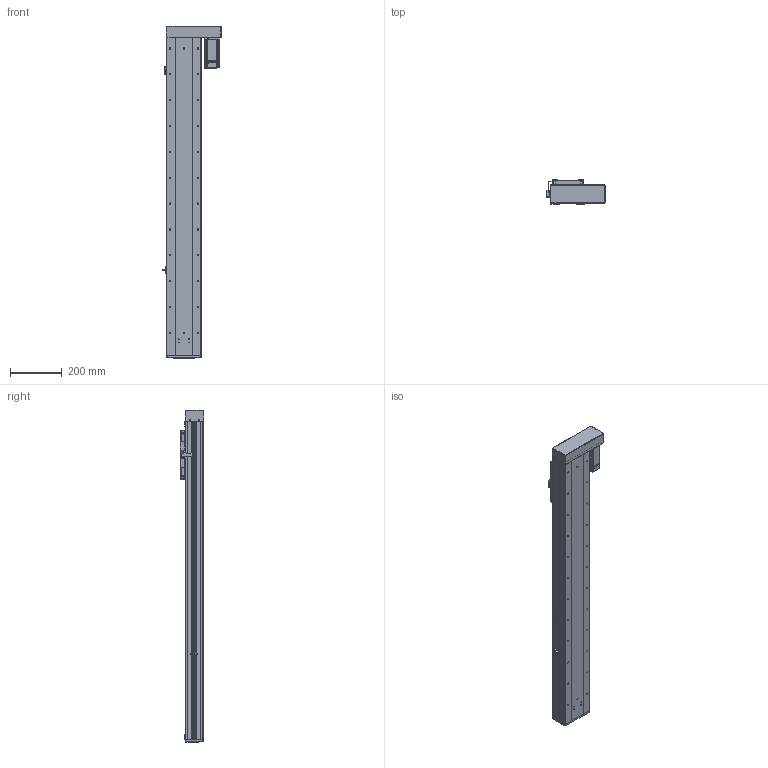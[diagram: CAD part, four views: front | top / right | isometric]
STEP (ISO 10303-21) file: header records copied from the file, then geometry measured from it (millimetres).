
FILE_DESCRIPTION (( 'STEP AP203' ), '1' );
FILE_NAME ('RY140F-L2020-300-RK.SLDASM_950.step', '2021-03-02T08:50:46', ( '盈信电脑' ), ( '东莞市道滘镇水果街19号' ), 'SwSTEP 2.0', 'SolidWorks 2012', '' );
FILE_SCHEMA (( 'CONFIG_CONTROL_DESIGN' ));
Length unit declared in the file: millimetre
Products named in the file (19): RY140F-L2020-300-RK.SLDASM_950; RY140F-酘衵殏萇儂欶(400W); RY140F-转折折电机座（7001）; RY140F-左右折电机安装板(400W M5); RY140F-詩湍揤え; 侐源滅袉蝶; RY140F-672覜茼んえ; 15; 侂狟400W侜督萇儂; 覜茼ん672; RY140F-后盖板(铝件）; RY100F-詩湍揤踡謫; RY140F-直连型材铝滑块(16丝杆); RY140F-300-RK蛌殏詩湍_950; RY140F-直连型材铝滑块连接座; RY140F-滅鳥奻裔; RY140F-詩湍幗謫粣; RY140F-300-RK倰第奻裔啣_950; RY140F-300-RK倰第菁釱_950
Assembly tree (23 placements, depth 3):
  RY140F-L2020-300-RK.SLDASM_950
    RY140F-300-RK倰第菁釱_950
    RY140F-300-RK倰第奻裔啣_950  x2
    RY140F-300-RK蛌殏詩湍_950
    RY140F-直连型材铝滑块连接座
    RY140F-滅鳥奻裔
    RY140F-詩湍幗謫粣
    RY100F-詩湍揤踡謫
    RY140F-直连型材铝滑块(16丝杆)
    RY140F-后盖板(铝件）
    侂狟400W侜督萇儂
      15
    覜茼ん672
    RY140F-672覜茼んえ
    RY140F-詩湍揤え  x2
    侐源滅袉蝶  x4
    RY140F-转折折电机座（7001）
    RY140F-左右折电机安装板(400W M5)
    RY140F-酘衵殏萇儂欶(400W)
Bounding box: 224.7 x 91 x 1284 mm (x, y, z)
Volume: 4827862.5 mm3; surface area: 1728054.1 mm2
Topology: 22 solids, 22 shells, 2093 faces, 5701 edges, 3602 vertices
Faces by surface type: cylinder 1024, plane 789, cone 250, bspline 26, torus 4
Entity records: 65875 total; most frequent: CARTESIAN_POINT 13851, DIRECTION 10606, ORIENTED_EDGE 10242, EDGE_CURVE 5121, AXIS2_PLACEMENT_3D 3821, VERTEX_POINT 3342, VECTOR 2964, LINE 2964
